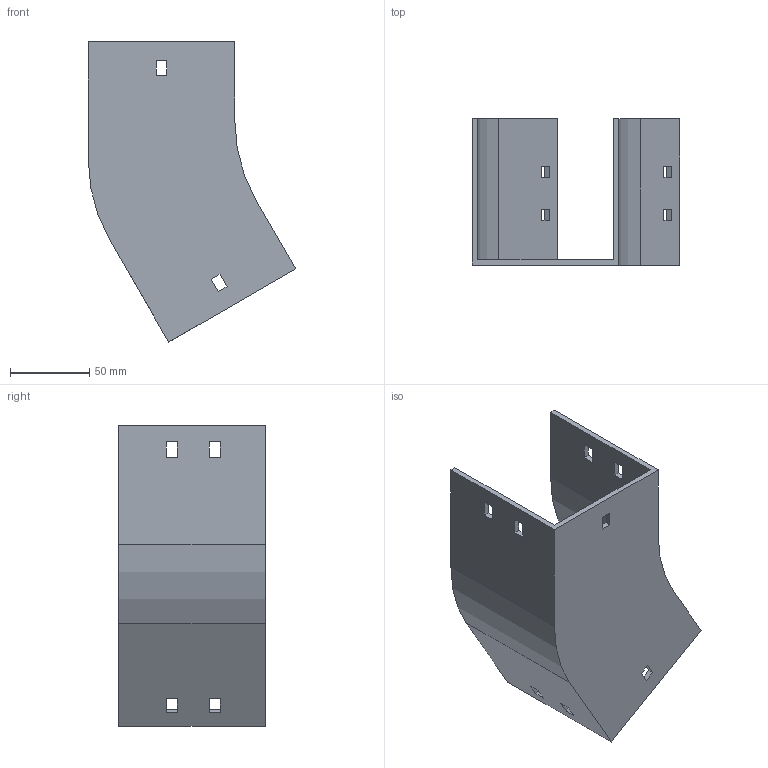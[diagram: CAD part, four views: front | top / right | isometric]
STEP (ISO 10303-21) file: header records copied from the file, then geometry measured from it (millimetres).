
FILE_DESCRIPTION (( 'STEP AP214' ), '1' );
FILE_NAME ('12B1I092.step', '2025-02-21T09:35:50', ( '' ), ( '' ), 'SwSTEP 2.0', 'SolidWorks 2023', '' );
FILE_SCHEMA (( 'AUTOMOTIVE_DESIGN' ));
Length unit declared in the file: millimetre
Products named in the file (1): 12B1I092
Bounding box: 130.9 x 92.5 x 189.55 mm (x, y, z)
Volume: 165740.9 mm3; surface area: 99011.6 mm2
Topology: 1 solids, 1 shells, 58 faces, 168 edges, 112 vertices
Faces by surface type: plane 54, cylinder 4
Entity records: 1943 total; most frequent: CARTESIAN_POINT 339, ORIENTED_EDGE 336, DIRECTION 294, EDGE_CURVE 168, LINE 160, VECTOR 160, VERTEX_POINT 112, EDGE_LOOP 78
